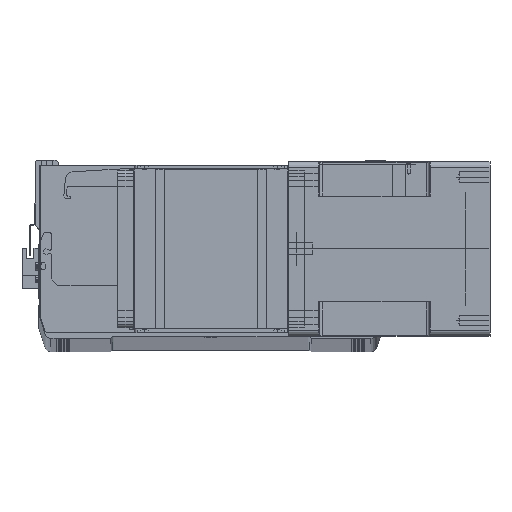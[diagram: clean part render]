
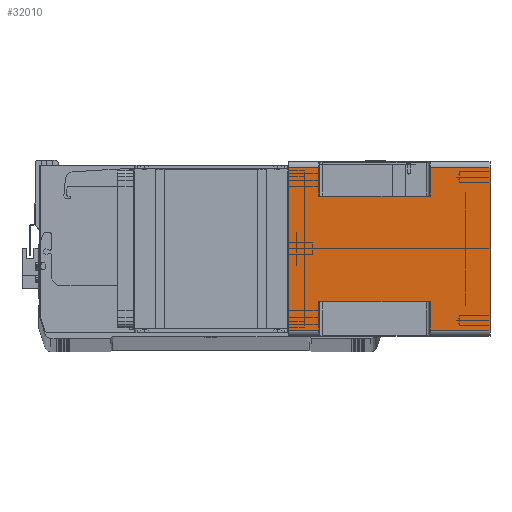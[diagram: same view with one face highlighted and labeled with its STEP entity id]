
A CAD part, top view. The second image highlights one B-rep face of the part: STEP entity #32010.
In plain terms, the highlighted planar face has unit normal (0, 0, 1) as drawn and (1, 0, 0) by its records, which use the part's own axes.
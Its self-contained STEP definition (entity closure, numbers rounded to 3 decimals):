
#118 = ORIENTED_EDGE ( 'NONE', *, *, #39555, .T. ) ;
#347 = CARTESIAN_POINT ( 'NONE',  ( 71., 66., -24.5 ) ) ;
#385 = VECTOR ( 'NONE', #2467, 1000. ) ;
#1213 = CARTESIAN_POINT ( 'NONE',  ( 71., 66., -164. ) ) ;
#1270 = VECTOR ( 'NONE', #38437, 1000. ) ;
#1600 = VERTEX_POINT ( 'NONE', #28841 ) ;
#1820 = ORIENTED_EDGE ( 'NONE', *, *, #7759, .T. ) ;
#1988 = CARTESIAN_POINT ( 'NONE',  ( 71., -66., -164. ) ) ;
#2056 = ORIENTED_EDGE ( 'NONE', *, *, #38341, .F. ) ;
#2227 = VERTEX_POINT ( 'NONE', #35502 ) ;
#2467 = DIRECTION ( 'NONE',  ( 0., 0., 1. ) ) ;
#2884 = LINE ( 'NONE', #28230, #20951 ) ;
#4211 = AXIS2_PLACEMENT_3D ( 'NONE', #15048, #28309, #21418 ) ;
#4358 = CARTESIAN_POINT ( 'NONE',  ( 71., 43., -24.5 ) ) ;
#4508 = VECTOR ( 'NONE', #10005, 1000. ) ;
#6110 = CARTESIAN_POINT ( 'NONE',  ( 71., -66., -164. ) ) ;
#6263 = DIRECTION ( 'NONE',  ( 0., 1., 0. ) ) ;
#7283 = VERTEX_POINT ( 'NONE', #39732 ) ;
#7759 = EDGE_CURVE ( 'NONE', #19275, #23955, #16017, .T. ) ;
#8270 = VECTOR ( 'NONE', #6263, 1000. ) ;
#10005 = DIRECTION ( 'NONE',  ( 0., 1., 0. ) ) ;
#10433 = ORIENTED_EDGE ( 'NONE', *, *, #16932, .T. ) ;
#11931 = VERTEX_POINT ( 'NONE', #25891 ) ;
#12437 = EDGE_CURVE ( 'NONE', #39770, #20188, #30764, .T. ) ;
#12460 = VECTOR ( 'NONE', #27558, 1000. ) ;
#12583 = VECTOR ( 'NONE', #36590, 1000. ) ;
#13148 = LINE ( 'NONE', #1988, #1270 ) ;
#14226 = ORIENTED_EDGE ( 'NONE', *, *, #33569, .T. ) ;
#15048 = CARTESIAN_POINT ( 'NONE',  ( 71., -66., -164. ) ) ;
#15909 = ORIENTED_EDGE ( 'NONE', *, *, #29048, .T. ) ;
#16017 = LINE ( 'NONE', #29330, #8270 ) ;
#16162 = LINE ( 'NONE', #34126, #40646 ) ;
#16932 = EDGE_CURVE ( 'NONE', #28104, #17199, #21917, .T. ) ;
#17199 = VERTEX_POINT ( 'NONE', #1213 ) ;
#17217 = CARTESIAN_POINT ( 'NONE',  ( 71., 43., -115.5 ) ) ;
#17240 = DIRECTION ( 'NONE',  ( 0., 0., 1. ) ) ;
#18024 = DIRECTION ( 'NONE',  ( 0., 1., 0. ) ) ;
#18080 = CARTESIAN_POINT ( 'NONE',  ( 71., 43., -115.5 ) ) ;
#19275 = VERTEX_POINT ( 'NONE', #4358 ) ;
#19310 = VECTOR ( 'NONE', #18024, 1000. ) ;
#19528 = EDGE_CURVE ( 'NONE', #39770, #2227, #39908, .T. ) ;
#20188 = VERTEX_POINT ( 'NONE', #40669 ) ;
#20951 = VECTOR ( 'NONE', #25039, 1000. ) ;
#21020 = DIRECTION ( 'NONE',  ( 0., 0., 1. ) ) ;
#21275 = EDGE_CURVE ( 'NONE', #2227, #7283, #30446, .T. ) ;
#21418 = DIRECTION ( 'NONE',  ( 0., 1., 0. ) ) ;
#21917 = LINE ( 'NONE', #41908, #19310 ) ;
#22317 = LINE ( 'NONE', #40784, #12460 ) ;
#22438 = CARTESIAN_POINT ( 'NONE',  ( 71., -66., -164. ) ) ;
#22971 = ORIENTED_EDGE ( 'NONE', *, *, #21275, .F. ) ;
#23324 = VECTOR ( 'NONE', #27119, 1000. ) ;
#23955 = VERTEX_POINT ( 'NONE', #347 ) ;
#24395 = CARTESIAN_POINT ( 'NONE',  ( 71., -43., -164. ) ) ;
#25039 = DIRECTION ( 'NONE',  ( 0., -1., 0. ) ) ;
#25891 = CARTESIAN_POINT ( 'NONE',  ( 71., -43., -115.5 ) ) ;
#26374 = ORIENTED_EDGE ( 'NONE', *, *, #38906, .F. ) ;
#26808 = VECTOR ( 'NONE', #21020, 1000. ) ;
#26836 = EDGE_CURVE ( 'NONE', #23955, #7283, #16162, .T. ) ;
#27119 = DIRECTION ( 'NONE',  ( 0., 0., 1. ) ) ;
#27209 = CARTESIAN_POINT ( 'NONE',  ( 71., -66., 0. ) ) ;
#27558 = DIRECTION ( 'NONE',  ( 0., 0., -1. ) ) ;
#27568 = EDGE_LOOP ( 'NONE', ( #2056, #15909, #26374, #10433, #14226, #118, #37569, #1820, #38128, #22971, #42220, #37821 ) ) ;
#28104 = VERTEX_POINT ( 'NONE', #6110 ) ;
#28163 = PLANE ( 'NONE',  #4211 ) ;
#28230 = CARTESIAN_POINT ( 'NONE',  ( 71., -66., -115.5 ) ) ;
#28309 = DIRECTION ( 'NONE',  ( 1., 0., 0. ) ) ;
#28366 = LINE ( 'NONE', #24395, #26808 ) ;
#28841 = CARTESIAN_POINT ( 'NONE',  ( 71., -66., -115.5 ) ) ;
#28948 = CARTESIAN_POINT ( 'NONE',  ( 71., 66., -115.5 ) ) ;
#29048 = EDGE_CURVE ( 'NONE', #11931, #1600, #2884, .T. ) ;
#29330 = CARTESIAN_POINT ( 'NONE',  ( 71., -66., -24.5 ) ) ;
#30446 = LINE ( 'NONE', #27209, #4508 ) ;
#30764 = LINE ( 'NONE', #33210, #41737 ) ;
#31075 = EDGE_CURVE ( 'NONE', #19275, #31953, #22317, .T. ) ;
#31953 = VERTEX_POINT ( 'NONE', #18080 ) ;
#32010 = ADVANCED_FACE ( 'NONE', ( #40933 ), #28163, .T. ) ;
#33210 = CARTESIAN_POINT ( 'NONE',  ( 71., -43., -24.5 ) ) ;
#33495 = DIRECTION ( 'NONE',  ( 0., 1., 0. ) ) ;
#33569 = EDGE_CURVE ( 'NONE', #17199, #40345, #41554, .T. ) ;
#33902 = CARTESIAN_POINT ( 'NONE',  ( 71., 66., -164. ) ) ;
#34126 = CARTESIAN_POINT ( 'NONE',  ( 71., 66., -164. ) ) ;
#35502 = CARTESIAN_POINT ( 'NONE',  ( 71., -66., 0. ) ) ;
#36590 = DIRECTION ( 'NONE',  ( 0., -1., 0. ) ) ;
#37569 = ORIENTED_EDGE ( 'NONE', *, *, #31075, .F. ) ;
#37821 = ORIENTED_EDGE ( 'NONE', *, *, #12437, .T. ) ;
#37897 = CARTESIAN_POINT ( 'NONE',  ( 71., -66., -24.5 ) ) ;
#38128 = ORIENTED_EDGE ( 'NONE', *, *, #26836, .T. ) ;
#38341 = EDGE_CURVE ( 'NONE', #11931, #20188, #28366, .T. ) ;
#38437 = DIRECTION ( 'NONE',  ( 0., 0., 1. ) ) ;
#38906 = EDGE_CURVE ( 'NONE', #28104, #1600, #13148, .T. ) ;
#39555 = EDGE_CURVE ( 'NONE', #40345, #31953, #39657, .T. ) ;
#39657 = LINE ( 'NONE', #17217, #12583 ) ;
#39732 = CARTESIAN_POINT ( 'NONE',  ( 71., 66., 0. ) ) ;
#39770 = VERTEX_POINT ( 'NONE', #37897 ) ;
#39908 = LINE ( 'NONE', #22438, #385 ) ;
#40345 = VERTEX_POINT ( 'NONE', #28948 ) ;
#40646 = VECTOR ( 'NONE', #17240, 1000. ) ;
#40669 = CARTESIAN_POINT ( 'NONE',  ( 71., -43., -24.5 ) ) ;
#40784 = CARTESIAN_POINT ( 'NONE',  ( 71., 43., -164. ) ) ;
#40933 = FACE_OUTER_BOUND ( 'NONE', #27568, .T. ) ;
#41554 = LINE ( 'NONE', #33902, #23324 ) ;
#41737 = VECTOR ( 'NONE', #33495, 1000. ) ;
#41908 = CARTESIAN_POINT ( 'NONE',  ( 71., -66., -164. ) ) ;
#42220 = ORIENTED_EDGE ( 'NONE', *, *, #19528, .F. ) ;
